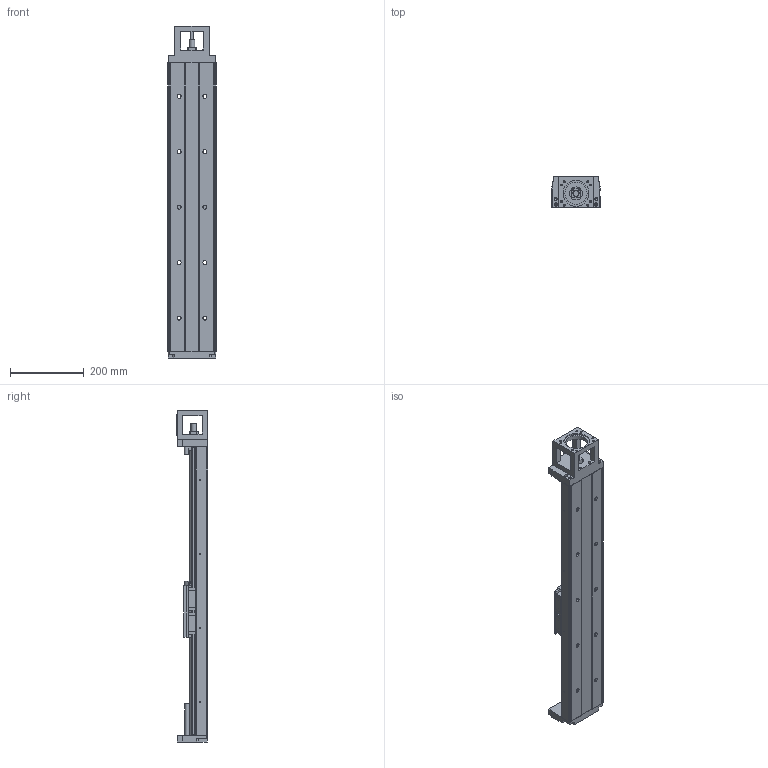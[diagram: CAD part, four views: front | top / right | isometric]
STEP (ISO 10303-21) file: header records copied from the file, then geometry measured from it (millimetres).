
FILE_DESCRIPTION(/* description */ (''),/* implementation_level */ '2;1');
FILE_NAME(/* name */ 'TKK130-780A1F0_stp.stp',/* time_stamp */ '2017-08-18T09:51:42+08:00',/* author */ (''),/* organization */ (''),/* preprocessor_version */ 'ST-DEVELOPER v15',/* originating_system */ 'SIEMENS PLM Software NX 8.5',/* authorisation */ '');
FILE_SCHEMA (('AUTOMOTIVE_DESIGN { 1 0 10303 214 3 1 1 1 }'));
Length unit declared in the file: millimetre
Products named in the file (3): 02; 01; TKK130-780A1F0_stp
Assembly tree (2 placements, depth 2):
  TKK130-780A1F0_stp
    01
    02
Bounding box: 130 x 85 x 898 mm (x, y, z)
Volume: 3624166.1 mm3; surface area: 607503.1 mm2
Topology: 2 solids, 4 shells, 851 faces, 2299 edges, 1495 vertices
Faces by surface type: plane 506, cylinder 228, cone 77, extrusion 33, bspline 6, torus 1
Full cylindrical faces by diameter (mm): 2.1 x8, 2.5 x4, 3.3 x22, 4.5 x16, 5 x23, 6.6 x10, 6.8 x8, 7 x2, 8 x8, 8.5 x4, 9 x8, 11 x14, 12 x4, 15 x1, 16.3 x1, 17 x12, 25 x1, 35 x2, 40 x3, 60.03 x1, 70.03 x1
Entity records: 26642 total; most frequent: CARTESIAN_POINT 5874, DIRECTION 3981, ORIENTED_EDGE 3826, EDGE_CURVE 1913, VERTEX_POINT 1392, AXIS2_PLACEMENT_3D 1343, VECTOR 1295, LINE 1262
